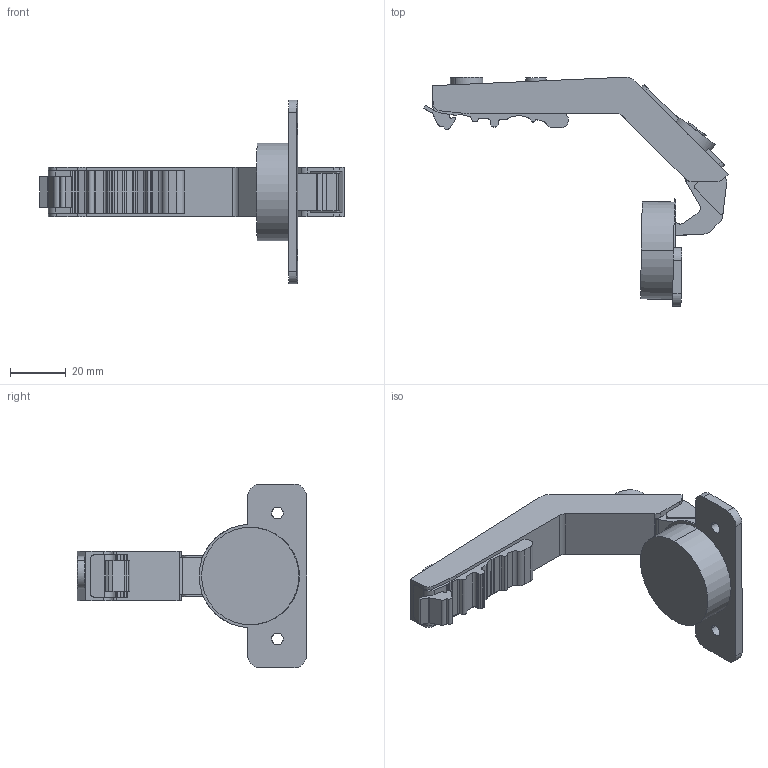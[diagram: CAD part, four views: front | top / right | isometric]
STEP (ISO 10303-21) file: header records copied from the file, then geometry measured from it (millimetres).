
FILE_DESCRIPTION (( 'STEP AP214' ), '1' );
FILE_NAME ('C82H675A-Close.STEP', '2025-07-21T03:13:02', ( '微软用户' ), ( '微软中国' ), 'SwSTEP 2.0', 'SolidWorks 2021', '' );
FILE_SCHEMA (( 'AUTOMOTIVE_DESIGN' ));
Length unit declared in the file: millimetre
Products named in the file (1): C82H675A-Close
Bounding box: 108.74 x 81.93 x 65.6 mm (x, y, z)
Volume: 44454.5 mm3; surface area: 14456.2 mm2
Topology: 1 solids, 1 shells, 167 faces, 480 edges, 321 vertices
Faces by surface type: plane 83, cylinder 81, bspline 3
Entity records: 5600 total; most frequent: CARTESIAN_POINT 1084, ORIENTED_EDGE 960, DIRECTION 944, EDGE_CURVE 480, AXIS2_PLACEMENT_3D 321, VERTEX_POINT 321, LINE 302, VECTOR 302
